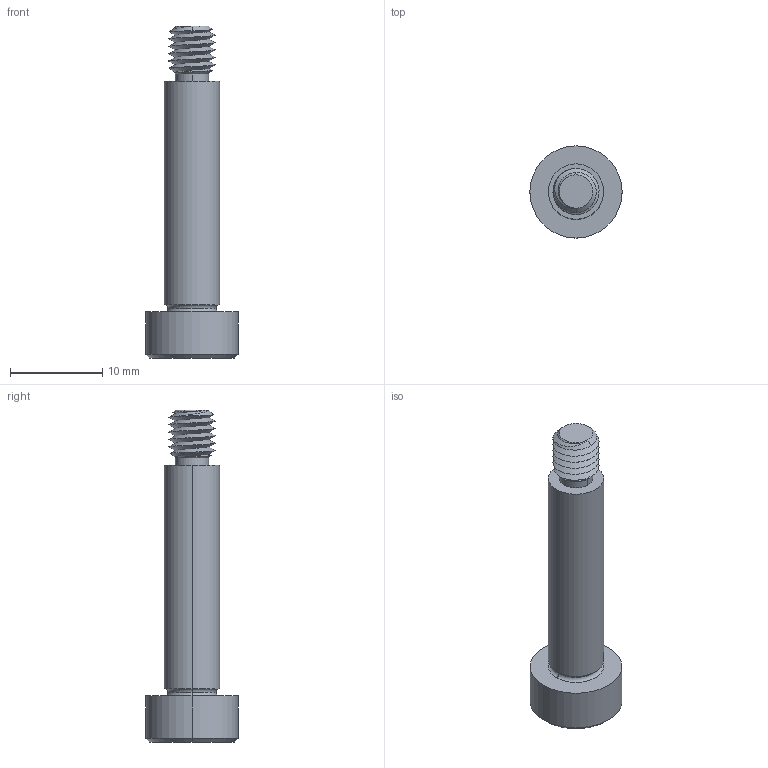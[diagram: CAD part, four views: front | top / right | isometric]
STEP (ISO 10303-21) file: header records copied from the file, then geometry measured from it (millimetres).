
FILE_DESCRIPTION (( 'STEP AP203' ), '1' );
FILE_NAME ('P0130.060-025-B2.step', '2021-11-09T21:26:27', ( '' ), ( '' ), 'SwSTEP 2.0', 'SolidWorks 2019', '' );
FILE_SCHEMA (( 'CONFIG_CONTROL_DESIGN' ));
Length unit declared in the file: millimetre
Products named in the file (1): P0130.060-025-B2
Bounding box: 10 x 10 x 36 mm (x, y, z)
Volume: 1150.8 mm3; surface area: 958.8 mm2
Topology: 1 solids, 1 shells, 53 faces, 121 edges, 71 vertices
Faces by surface type: cylinder 17, plane 16, cone 14, torus 4, bspline 2
Entity records: 2367 total; most frequent: CARTESIAN_POINT 1186, ORIENTED_EDGE 238, DIRECTION 226, EDGE_CURVE 119, AXIS2_PLACEMENT_3D 92, VERTEX_POINT 71, EDGE_LOOP 56, ADVANCED_FACE 53
